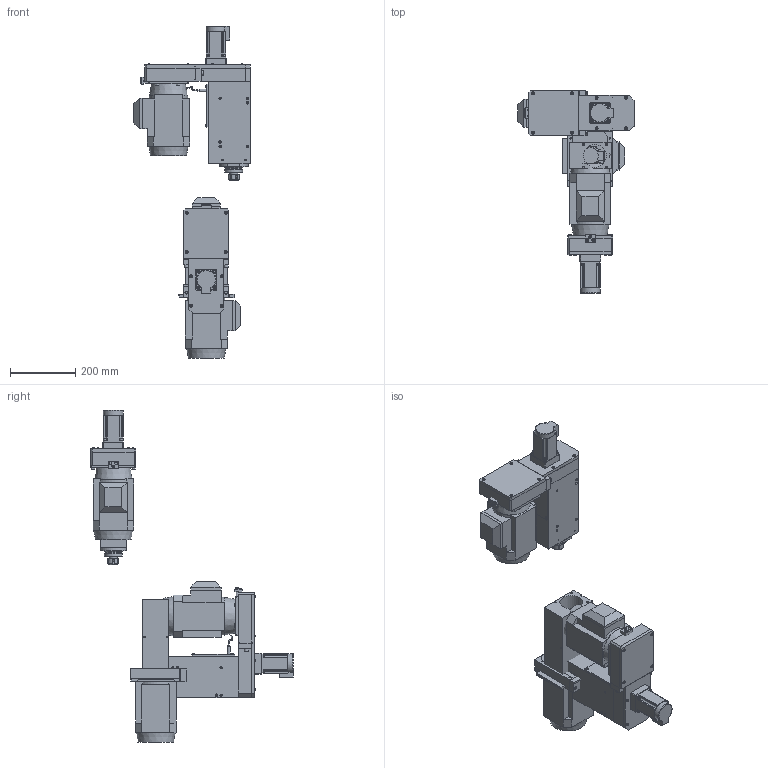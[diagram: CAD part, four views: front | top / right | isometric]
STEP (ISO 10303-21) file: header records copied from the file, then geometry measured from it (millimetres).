
FILE_DESCRIPTION( ( 'STEP AP203' ), '1' );
FILE_NAME( 'C:/Documents and Settings/Saverio/Desktop/disegni ironcad/unità serie 1/FM 110 CN/FM 110 CN_A.stp', '2013-12-10T08:08:06', ( ' ' ), ( ' ' ), 'XStep 1.0', ' ', ' ' );
FILE_SCHEMA( ( 'CONFIG_CONTROL_DESIGN' ) );
Length unit declared in the file: metre
Products named in the file (46): Assem1; Assem2; Assem3; 1; 2; 3; 4; 5; 6; 7; 8; 9; 10; 11; 12; 13; 14; 15; 16; 17; 18; 19; 20; 21; 22; 23; 24; 25; 26; 27; 28; 29; 30; 31; 32; 33; 34; 35; 36; 37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
Bounding box: 356 x 620.16 x 1016.46 mm (x, y, z)
Volume: 23423305.7 mm3; surface area: 2229530.2 mm2
Topology: 129 solids, 129 shells, 2367 faces, 5445 edges, 3483 vertices
Faces by surface type: plane 1365, cone 468, cylinder 450, sphere 36, bspline 24, torus 24
Full cylindrical faces by diameter (mm): 3.3 x18, 4.2 x39, 4.3 x12, 5 x60, 5.5 x69, 6.75 x42, 7 x3, 8 x9, 8.385 x3, 8.5 x18, 12.85 x6, 14 x3, 16 x6, 22.5 x3, 23.5 x3, 25 x3, 26 x6, 29 x3, 35 x3, 37 x3, 50 x18, 54 x3, 60 x12, 70 x6, 71 x3
Entity records: 23871 total; most frequent: CARTESIAN_POINT 4944, DIRECTION 3574, ORIENTED_EDGE 2986, EDGE_CURVE 1493, AXIS2_PLACEMENT_3D 1379, EDGE_LOOP 1191, VERTEX_POINT 1134, FACE_OUTER_BOUND 926
